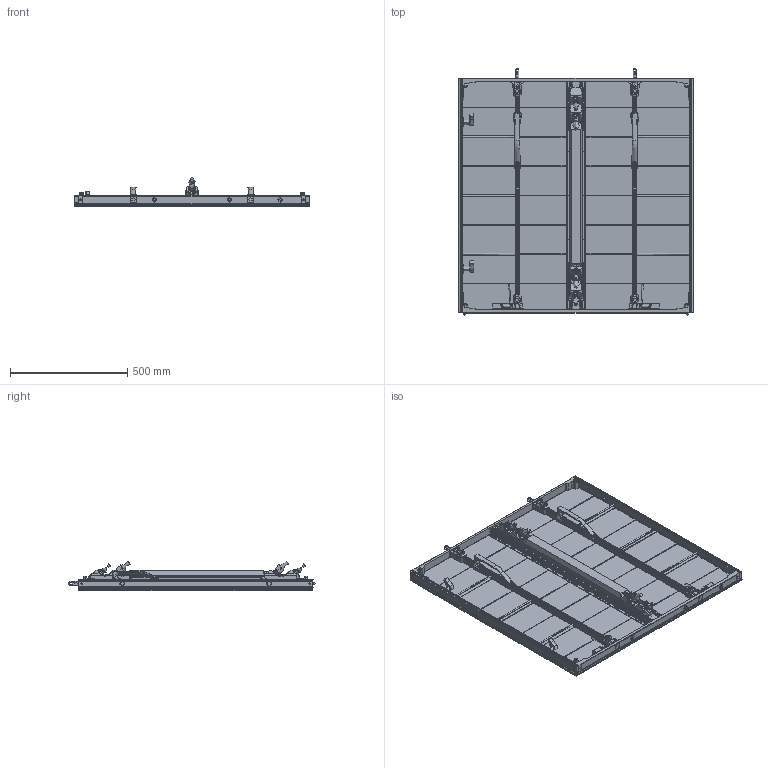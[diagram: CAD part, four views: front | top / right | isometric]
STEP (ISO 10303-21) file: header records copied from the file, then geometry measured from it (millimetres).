
FILE_DESCRIPTION(/* description */ ('eT4io 1000x1000 Modul'),/* implementation_level */ '2;1');
FILE_NAME(/* name */ 'LEDitgo_eT4io_1000x1000_Modul.stp',/* time_stamp */ '2025-11-28T16:16:46+01:00',/* author */ ('caduser'),/* organization */ ('LEDitgo Videowall Germany GmbH'),/* preprocessor_version */ 'ST-DEVELOPER v20',/* originating_system */ 'Autodesk Inventor 2024',/* authorisation */ '');
FILE_SCHEMA (('AUTOMOTIVE_DESIGN { 1 0 10303 214 3 1 1 }'));
Products named in the file (3): LEDitgo_eT4io_1000x1000_Modul; ET1000X1000; POWERGAI
Assembly tree (2 placements, depth 2):
  LEDitgo_eT4io_1000x1000_Modul
    ET1000X1000
    POWERGAI
Bounding box: 999.8 x 1047.8 x 124.27 mm (x, y, z)
Volume: 14669819 mm3; surface area: 3738534.2 mm2
Topology: 2 solids, 2 shells, 6219 faces, 16136 edges, 10043 vertices
Faces by surface type: plane 2854, cylinder 1931, bspline 548, cone 483, sphere 216, torus 187
Full cylindrical faces by diameter (mm): 2.5 x38, 2.6 x8, 3 x11, 3.024 x2, 3.1 x2, 3.2 x52, 3.3 x16, 3.4 x2, 3.5 x14, 4.1 x20, 4.2 x6, 4.8 x32, 5 x16, 5.4 x4, 5.5 x16, 6 x4, 6.4 x32, 6.8 x8, 8 x43, 8.1 x4, 8.2 x2, 9 x6, 9.2 x2, 10 x4, 10.2 x2, 12 x1, 12.1 x2, 12.2 x1, 13.2 x2, 14 x5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
Entity records: 295800 total; most frequent: CARTESIAN_POINT 145150, ORIENTED_EDGE 32044, DIRECTION 30542, EDGE_CURVE 16022, AXIS2_PLACEMENT_3D 10915, VERTEX_POINT 10043, LINE 8712, VECTOR 8712
